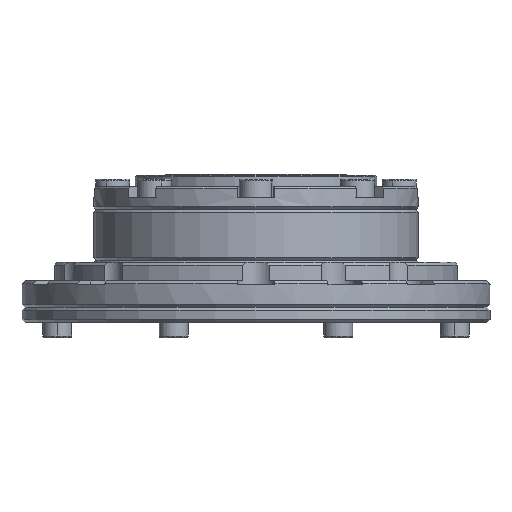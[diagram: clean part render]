
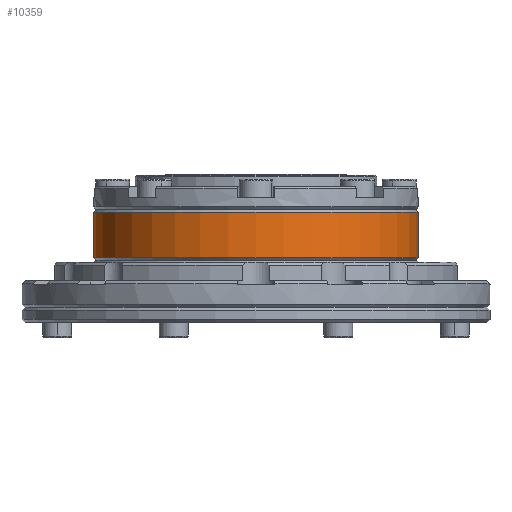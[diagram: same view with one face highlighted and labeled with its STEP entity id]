
A CAD part, front view. The second image highlights one B-rep face of the part: STEP entity #10359.
In plain terms, the highlighted cylindrical face has radius 21.5 mm (diameter 43 mm), a partial arc.
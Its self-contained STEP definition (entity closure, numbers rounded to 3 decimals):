
#215 = LINE ( 'NONE', #9544, #18783 ) ;
#307 = EDGE_CURVE ( 'NONE', #7105, #33784, #215, .T. ) ;
#660 = CARTESIAN_POINT ( 'NONE',  ( -21.5, 0., -8.472 ) ) ;
#1561 = DIRECTION ( 'NONE',  ( 0., 0., -1. ) ) ;
#1990 = CARTESIAN_POINT ( 'NONE',  ( 21.5, 0., 6.6 ) ) ;
#2959 = ORIENTED_EDGE ( 'NONE', *, *, #307, .F. ) ;
#5537 = ORIENTED_EDGE ( 'NONE', *, *, #25101, .T. ) ;
#7105 = VERTEX_POINT ( 'NONE', #1990 ) ;
#7211 = VERTEX_POINT ( 'NONE', #23116 ) ;
#7791 = EDGE_CURVE ( 'NONE', #33784, #7211, #37218, .T. ) ;
#8100 = CARTESIAN_POINT ( 'NONE',  ( -21.5, 0., 6.6 ) ) ;
#9416 = DIRECTION ( 'NONE',  ( 0., 0., -1. ) ) ;
#9544 = CARTESIAN_POINT ( 'NONE',  ( 21.5, 0., -8.472 ) ) ;
#10359 = ADVANCED_FACE ( 'NONE', ( #11662 ), #26173, .T. ) ;
#11662 = FACE_OUTER_BOUND ( 'NONE', #34841, .T. ) ;
#11784 = CARTESIAN_POINT ( 'NONE',  ( 0., 0., 0.6 ) ) ;
#13696 = AXIS2_PLACEMENT_3D ( 'NONE', #11784, #26492, #15235 ) ;
#14497 = DIRECTION ( 'NONE',  ( 0., 0., -1. ) ) ;
#15235 = DIRECTION ( 'NONE',  ( -1., 0., 0. ) ) ;
#16517 = AXIS2_PLACEMENT_3D ( 'NONE', #18917, #1561, #24700 ) ;
#17563 = ORIENTED_EDGE ( 'NONE', *, *, #28348, .T. ) ;
#18783 = VECTOR ( 'NONE', #9416, 1000. ) ;
#18917 = CARTESIAN_POINT ( 'NONE',  ( 0., 0., 6.6 ) ) ;
#19274 = VECTOR ( 'NONE', #29775, 1000. ) ;
#19278 = CARTESIAN_POINT ( 'NONE',  ( 21.5, 0., 0.6 ) ) ;
#19585 = ORIENTED_EDGE ( 'NONE', *, *, #7791, .F. ) ;
#19651 = AXIS2_PLACEMENT_3D ( 'NONE', #28926, #14497, #34763 ) ;
#23116 = CARTESIAN_POINT ( 'NONE',  ( -21.5, 0., 0.6 ) ) ;
#23312 = LINE ( 'NONE', #660, #19274 ) ;
#24700 = DIRECTION ( 'NONE',  ( -1., 0., 0. ) ) ;
#25101 = EDGE_CURVE ( 'NONE', #7105, #35350, #34422, .T. ) ;
#26173 = CYLINDRICAL_SURFACE ( 'NONE', #19651, 21.5 ) ;
#26492 = DIRECTION ( 'NONE',  ( 0., 0., -1. ) ) ;
#28348 = EDGE_CURVE ( 'NONE', #35350, #7211, #23312, .T. ) ;
#28926 = CARTESIAN_POINT ( 'NONE',  ( 0., 0., -8.472 ) ) ;
#29775 = DIRECTION ( 'NONE',  ( 0., 0., -1. ) ) ;
#33784 = VERTEX_POINT ( 'NONE', #19278 ) ;
#34422 = CIRCLE ( 'NONE', #16517, 21.5 ) ;
#34763 = DIRECTION ( 'NONE',  ( -1., 0., 0. ) ) ;
#34841 = EDGE_LOOP ( 'NONE', ( #2959, #5537, #17563, #19585 ) ) ;
#35350 = VERTEX_POINT ( 'NONE', #8100 ) ;
#37218 = CIRCLE ( 'NONE', #13696, 21.5 ) ;
